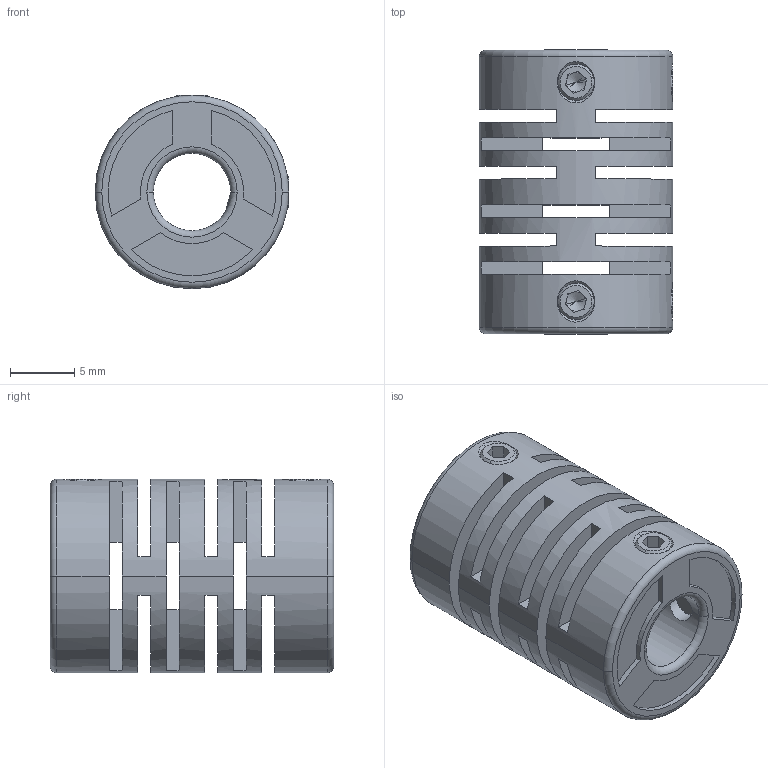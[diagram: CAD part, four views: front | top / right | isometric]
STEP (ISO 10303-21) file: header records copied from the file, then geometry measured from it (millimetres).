
FILE_DESCRIPTION (( 'STEP AP203' ), '1' );
FILE_NAME ('LR2-D-D15L22.STEP', '2021-10-28T08:12:23', ( '' ), ( '' ), 'SwSTEP 2.0', 'SolidWorks 2018', '' );
FILE_SCHEMA (( 'CONFIG_CONTROL_DESIGN' ));
Length unit declared in the file: millimetre
Products named in the file (1): LR2-D-D15L22
Bounding box: 15 x 22 x 15 mm (x, y, z)
Volume: 2462.6 mm3; surface area: 3087.3 mm2
Topology: 1 solids, 1 shells, 208 faces, 568 edges, 356 vertices
Faces by surface type: plane 124, cone 48, cylinder 28, torus 8
Entity records: 6997 total; most frequent: CARTESIAN_POINT 1493, DIRECTION 1186, ORIENTED_EDGE 1120, EDGE_CURVE 560, AXIS2_PLACEMENT_3D 433, VERTEX_POINT 356, LINE 320, VECTOR 320
